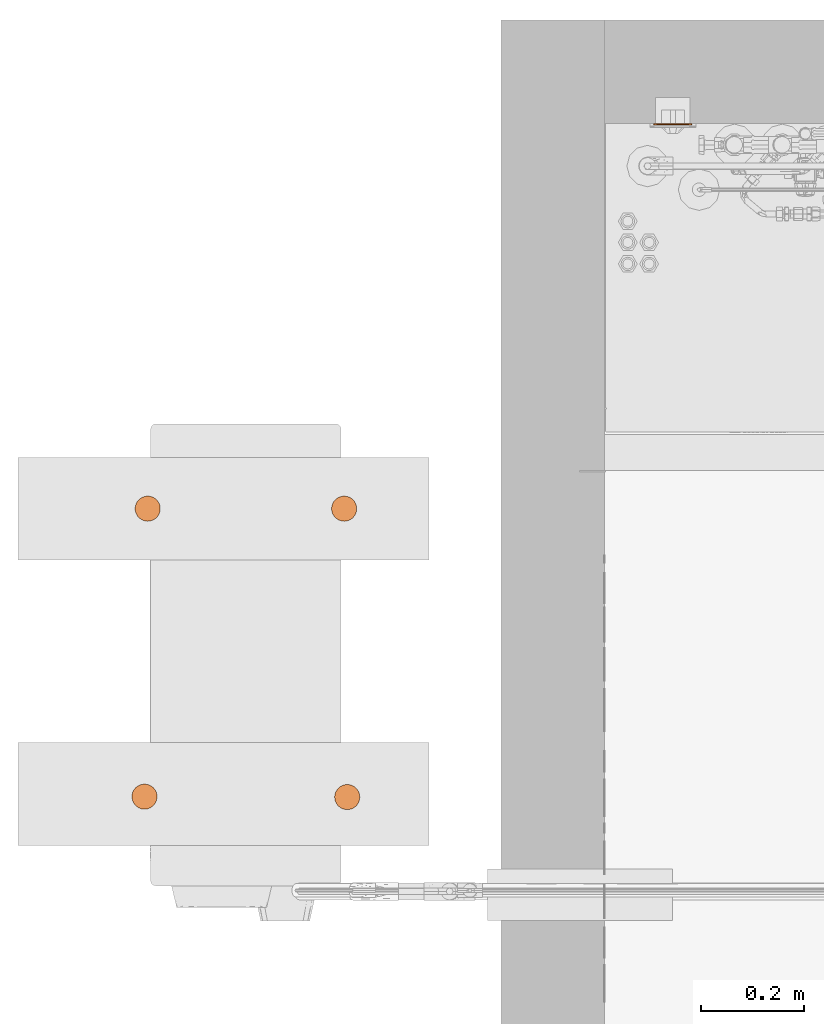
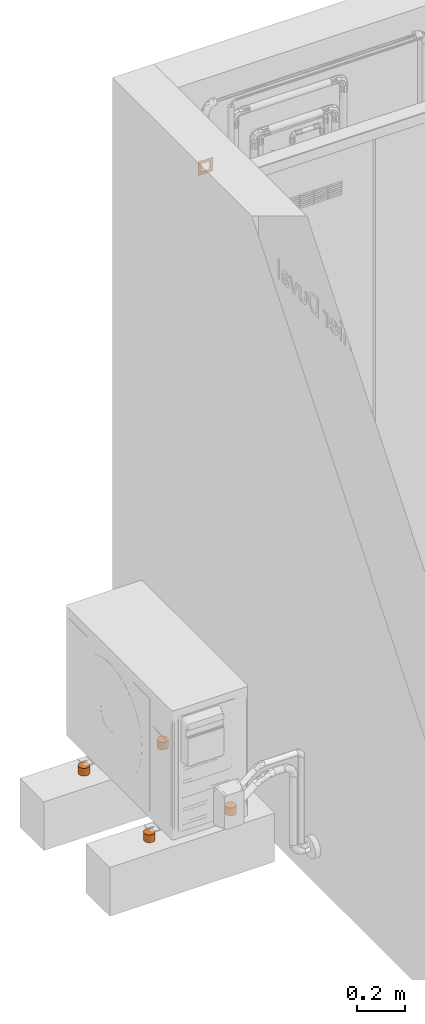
# One storey, part 30 of 32: 5 proxies.
"""IFC2X3 building model written with IfcOpenShell, lengths in metres."""

import ifcopenshell
import ifcopenshell.guid

model = None  # the IFC model being written
_history = None  # IfcOwnerHistory: only IFC2X3 demands one
_inside = {}  # id of a spatial element -> (the spatial element, [elements in it])
_under = {}  # id of a project, library or spatial element -> (it, [spatial elements below it])
_declared = {}  # id of a project -> (the project, [libraries it declares])
_typed = {}  # id of a type object -> (the type object, [elements of that type])
_made_of = {}  # id of a material, layer set ... -> (it, [elements and type objects made of it])


def new_model(schema):
    """Start an empty IFC model of exactly this schema.

    Asked for "IFC4X3", IfcOpenShell would pick the latest addendum, in which some entities
    have other attributes; the version numbers below select the first issue.
    IFC2X3 requires an IfcOwnerHistory on every rooted entity: one is made here for all.
    """
    global model, _history
    if schema == "IFC4X3":
        model = ifcopenshell.file(schema_version=(4, 3, 0, 0))
    else:
        model = ifcopenshell.file(schema=schema)
    _inside.clear()
    _under.clear()
    _declared.clear()
    _typed.clear()
    _made_of.clear()
    _history = None
    if model.schema == "IFC2X3":
        org = make("IfcOrganization", Name="unknown")
        user = make(
            "IfcPersonAndOrganization",
            ThePerson=make("IfcPerson", FamilyName="unknown"),
            TheOrganization=org,
        )
        app = make(
            "IfcApplication",
            ApplicationDeveloper=org,
            Version="unknown",
            ApplicationFullName="unknown",
            ApplicationIdentifier="unknown",
        )
        _history = make(
            "IfcOwnerHistory",
            OwningUser=user,
            OwningApplication=app,
            ChangeAction="ADDED",
            CreationDate=0,
        )
    return model


def make(cls, **values):
    """One entity of the class cls with the attributes given. An attribute that is None is left unset."""
    return model.create_entity(
        cls, **{name: value for name, value in values.items() if value is not None}
    )


def entity(cls, *values):
    """Any entity or typed value of the class cls, its attributes in the order of the schema. None: left unset."""
    e = model.create_entity(cls)
    for i, value in enumerate(values):
        if value is not None:
            e[i] = value
    return e


def rooted(cls, **values):
    """An entity with a GlobalId (a new one), such as an element, a storey or a relation."""
    return make(cls, GlobalId=ifcopenshell.guid.new(), OwnerHistory=_history, **values)


def si_unit(unit_type, name, prefix=None):
    """IfcSIUnit, for example si_unit("LENGTHUNIT", "METRE", prefix="MILLI")."""
    return make("IfcSIUnit", UnitType=unit_type, Prefix=prefix, Name=name)


def converted_unit(unit_type, name, factor, base, dimensions=None, offset=None):
    """IfcConversionBasedUnit, such as the inch: factor (a typed value) times the base unit."""
    return make(
        "IfcConversionBasedUnit"
        if offset is None
        else "IfcConversionBasedUnitWithOffset",
        ConversionOffset=offset,
        Dimensions=None
        if dimensions is None
        else entity("IfcDimensionalExponents", *dimensions),
        UnitType=unit_type,
        Name=name,
        ConversionFactor=make(
            "IfcMeasureWithUnit", ValueComponent=factor, UnitComponent=base
        ),
    )


def derived_unit(unit_type, elements):
    """IfcDerivedUnit: a product of units, each with its exponent."""
    return make(
        "IfcDerivedUnit",
        Elements=[
            make("IfcDerivedUnitElement", Unit=unit, Exponent=power)
            for unit, power in elements
        ],
        UnitType=unit_type,
    )


def assignment(units):
    """IfcUnitAssignment: the units of a project."""
    return None if units is None else make("IfcUnitAssignment", Units=units)


def point(xyz):
    """IfcCartesianPoint."""
    return None if xyz is None else make("IfcCartesianPoint", Coordinates=xyz)


def direction(xyz):
    """IfcDirection."""
    return None if xyz is None else make("IfcDirection", DirectionRatios=xyz)


def frame(location, z_axis=None, x_axis=None):
    """IfcAxis2Placement3D, a coordinate frame: its origin and axes. An axis left out is left unset."""
    return make(
        "IfcAxis2Placement3D",
        Location=point(location),
        Axis=direction(z_axis),
        RefDirection=direction(x_axis),
    )


def frame_2d(location, x_axis=None):
    """IfcAxis2Placement2D, a coordinate frame in the plane: its origin and x axis."""
    return make(
        "IfcAxis2Placement2D", Location=point(location), RefDirection=direction(x_axis)
    )


def origin():
    """The frame at (0, 0, 0) with its axes left unset."""
    return frame((0.0, 0.0, 0.0))


def place(relative_to, where):
    """IfcLocalPlacement: puts the frame where relative to a parent placement (None: the world)."""
    return make(
        "IfcLocalPlacement", PlacementRelTo=relative_to, RelativePlacement=where
    )


def context(
    kind, dimensions, precision=None, world=None, true_north=None, identifier=None
):
    """IfcGeometricRepresentationContext, for example the 3D "Model" context."""
    return make(
        "IfcGeometricRepresentationContext",
        ContextIdentifier=identifier,
        ContextType=kind,
        CoordinateSpaceDimension=dimensions,
        Precision=precision,
        WorldCoordinateSystem=world,
        TrueNorth=true_north,
    )


def subcontext(parent, identifier, kind, view, scale=None):
    """IfcGeometricRepresentationSubContext, for example "Body" below "Model"."""
    return make(
        "IfcGeometricRepresentationSubContext",
        ContextIdentifier=identifier,
        ContextType=kind,
        ParentContext=parent,
        TargetScale=scale,
        TargetView=view,
    )


def project(units=None, contexts=None):
    """IfcProject with its units and contexts."""
    return rooted(
        "IfcProject",
        Name="project",
        RepresentationContexts=contexts,
        UnitsInContext=assignment(units),
    )


def spatial(cls, under=None, at=None, **own):
    """A site, building, storey or space (cls), placed at a placement, below another one or the project."""
    s = rooted(cls, ObjectPlacement=at, **own)
    if under is not None:
        _under.setdefault(under.id(), (under, []))[1].append(s)
    return s


def polyline(points):
    """IfcPolyline through the points."""
    return make("IfcPolyline", Points=[point(p) for p in points])


def circle_curve(where, radius):
    """IfcCircle in the frame where."""
    return make("IfcCircle", Position=where, Radius=radius)


def parameter(value):
    """IfcParameterValue: where a trimmed curve begins or ends, as a parameter of its basis curve."""
    return model.create_entity("IfcParameterValue", value)


def trimmed(basis, trim1, trim2, sense, master):
    """IfcTrimmedCurve: the piece of a basis curve between two trims."""
    return make(
        "IfcTrimmedCurve",
        BasisCurve=basis,
        Trim1=trim1,
        Trim2=trim2,
        SenseAgreement=sense,
        MasterRepresentation=master,
    )


def segment(curve, same_sense, transition):
    """IfcCompositeCurveSegment."""
    return make(
        "IfcCompositeCurveSegment",
        Transition=transition,
        SameSense=same_sense,
        ParentCurve=curve,
    )


def composite_curve(segments, self_intersect=None):
    """IfcCompositeCurve: segments joined end to end."""
    return make("IfcCompositeCurve", Segments=segments, SelfIntersect=self_intersect)


def profile(cls, at=None, kind="AREA", **sizes):
    """A parametric profile (cls). Its sizes go by their IFC names, for example OverallWidth=200.0."""
    return make(cls, ProfileType=kind, Position=at, **sizes)


def circle(**sizes):
    """IfcCircleProfileDef."""
    return profile("IfcCircleProfileDef", **sizes)


def outline(outer, holes=None, kind="AREA"):
    """IfcArbitraryClosedProfileDef: a profile drawn as a closed curve; with holes, ...WithVoids."""
    if holes is None:
        return make("IfcArbitraryClosedProfileDef", ProfileType=kind, OuterCurve=outer)
    return make(
        "IfcArbitraryProfileDefWithVoids",
        ProfileType=kind,
        OuterCurve=outer,
        InnerCurves=holes,
    )


def extrude(swept, where, along, depth):
    """IfcExtrudedAreaSolid: the profile swept, set in the frame where, extruded along a direction by depth."""
    return make(
        "IfcExtrudedAreaSolid",
        SweptArea=swept,
        Position=where,
        ExtrudedDirection=direction(along),
        Depth=depth,
    )


def shape(context_of_items, identifier, shape_type, items):
    """IfcShapeRepresentation: the items that make up one representation, for example the "Body"."""
    return make(
        "IfcShapeRepresentation",
        ContextOfItems=context_of_items,
        RepresentationIdentifier=identifier,
        RepresentationType=shape_type,
        Items=items,
    )


def source(mapping_origin, context_of_items, identifier, shape_type, items):
    """IfcRepresentationMap: a shape defined once, which mapped items show again and again."""
    return make(
        "IfcRepresentationMap",
        MappingOrigin=mapping_origin,
        MappedRepresentation=shape(context_of_items, identifier, shape_type, items),
    )


def transform(
    local_origin,
    x_axis=None,
    y_axis=None,
    z_axis=None,
    scale=None,
    scale2=None,
    scale3=None,
    uniform=True,
):
    """IfcCartesianTransformationOperator3D, or its non-uniform kind. x_axis, y_axis, z_axis: its Axis1, 2, 3."""
    if uniform:
        return make(
            "IfcCartesianTransformationOperator3D",
            Axis1=direction(x_axis),
            Axis2=direction(y_axis),
            LocalOrigin=point(local_origin),
            Scale=scale,
            Axis3=direction(z_axis),
        )
    return make(
        "IfcCartesianTransformationOperator3DnonUniform",
        Axis1=direction(x_axis),
        Axis2=direction(y_axis),
        LocalOrigin=point(local_origin),
        Scale=scale,
        Axis3=direction(z_axis),
        Scale2=scale2,
        Scale3=scale3,
    )


def mapped(mapping_source, mapping_target):
    """IfcMappedItem: shows the shape of a source again, moved by a transform."""
    return make(
        "IfcMappedItem", MappingSource=mapping_source, MappingTarget=mapping_target
    )


def material(Name=None, Category=None):
    """IfcMaterial."""
    return make("IfcMaterial", Name=Name, Category=Category)


def made_of(thing, what):
    """Note that an element or type object is made of a material, layer set ...; save() writes the relation."""
    if what is not None:
        _made_of.setdefault(what.id(), (what, []))[1].append(thing)
    return thing


def type_object(cls, material=None, **own):
    """A type object (cls), such as IfcWallType, which elements share."""
    return made_of(rooted(cls, **own), material)


def type_shapes(of_type, sources):
    """Give a type object the sources (RepresentationMaps) that its elements show as mapped items."""
    of_type.RepresentationMaps = sources


def element(
    cls,
    number,
    at=None,
    inside=None,
    cuts=None,
    type_object=None,
    material=None,
    context=None,
    identifier="Body",
    shape_type=None,
    held_by="IfcProductDefinitionShape",
    body=None,
    shapes=None,
    **own,
):
    """One element of the class cls, such as IfcWall. Its Tag is "e" and its number.

    at: its placement. inside: the storey or other place that contains it. cuts: it is an
    opening in that element (IfcRelVoidsElement). A single representation is given by context,
    identifier, shape_type and body (its items); several are given by shapes. held_by: the class
    of the entity that holds the representations. save() writes the other relations.
    """
    e = rooted(cls, Tag="e%d" % number, ObjectPlacement=at, **own)
    if body is not None:
        shapes = [shape(context, identifier, shape_type, body)]
    if shapes is not None:
        e.Representation = make(held_by, Representations=shapes)
    if inside is not None:
        _inside.setdefault(inside.id(), (inside, []))[1].append(e)
    if cuts is not None:
        rooted(
            "IfcRelVoidsElement", RelatingBuildingElement=cuts, RelatedOpeningElement=e
        )
    if type_object is not None:
        _typed.setdefault(type_object.id(), (type_object, []))[1].append(e)
    return made_of(e, material)


def aggregate(whole, parts):
    """IfcRelAggregates: a whole, such as a stair, and the parts it consists of."""
    return rooted("IfcRelAggregates", RelatingObject=whole, RelatedObjects=parts)


def save(model, path):
    """Write the relations noted so far, then the file.

    IfcRelAggregates (storeys below a building ...), IfcRelContainedInSpatialStructure (elements
    in a storey), IfcRelDefinesByType, IfcRelAssociatesMaterial and IfcRelDeclares: one each for
    every whole, place, type object, material and project.
    """
    for whole, parts in _under.values():
        aggregate(whole, parts)
    for where, things in _inside.values():
        rooted(
            "IfcRelContainedInSpatialStructure",
            RelatedElements=things,
            RelatingStructure=where,
        )
    for kind, things in _typed.values():
        rooted("IfcRelDefinesByType", RelatedObjects=things, RelatingType=kind)
    for what, things in _made_of.values():
        rooted("IfcRelAssociatesMaterial", RelatedObjects=things, RelatingMaterial=what)
    for by, libraries in _declared.values():
        rooted("IfcRelDeclares", RelatingContext=by, RelatedDefinitions=libraries)
    model.write(path)


model = new_model("IFC2X3")

# Units and contexts
model_context = context("Model", 3, precision=1e-05, world=origin(), true_north=direction((6.123031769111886e-17, 1.0)))
body_context = subcontext(model_context, "Body", "Model", "MODEL_VIEW")
ifc_project = project(units=[si_unit("LENGTHUNIT", "METRE"), si_unit("AREAUNIT", "SQUARE_METRE"), si_unit("VOLUMEUNIT", "CUBIC_METRE"), converted_unit("PLANEANGLEUNIT", "DEGREE", entity("IfcPlaneAngleMeasure", 0.017453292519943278), si_unit("PLANEANGLEUNIT", "RADIAN"), dimensions=[0, 0, 0, 0, 0, 0, 0]), si_unit("MASSUNIT", "GRAM", prefix="KILO"), derived_unit("MASSDENSITYUNIT", [(si_unit("MASSUNIT", "GRAM", prefix="KILO"), 1), (si_unit("LENGTHUNIT", "METRE"), -3)]), derived_unit("IONCONCENTRATIONUNIT", [(si_unit("MASSUNIT", "GRAM", prefix="KILO"), 1), (si_unit("LENGTHUNIT", "METRE"), -3)]), derived_unit("MOMENTOFINERTIAUNIT", [(si_unit("LENGTHUNIT", "METRE"), 4)]), si_unit("TIMEUNIT", "SECOND"), si_unit("FREQUENCYUNIT", "HERTZ"), si_unit("THERMODYNAMICTEMPERATUREUNIT", "DEGREE_CELSIUS"), derived_unit("THERMALTRANSMITTANCEUNIT", [(si_unit("MASSUNIT", "GRAM", prefix="KILO"), 1), (si_unit("THERMODYNAMICTEMPERATUREUNIT", "KELVIN"), -1), (si_unit("TIMEUNIT", "SECOND"), -3)]), derived_unit("THERMALCONDUCTANCEUNIT", [(si_unit("MASSUNIT", "GRAM", prefix="KILO"), 1), (si_unit("THERMODYNAMICTEMPERATUREUNIT", "KELVIN"), -1), (si_unit("TIMEUNIT", "SECOND"), -3), (si_unit("LENGTHUNIT", "METRE"), 1)]), derived_unit("VOLUMETRICFLOWRATEUNIT", [(si_unit("LENGTHUNIT", "METRE", prefix="DECI"), 3), (si_unit("TIMEUNIT", "SECOND"), -1)]), derived_unit("MASSFLOWRATEUNIT", [(si_unit("MASSUNIT", "GRAM", prefix="KILO"), 1), (si_unit("TIMEUNIT", "SECOND"), -1)]), derived_unit("ROTATIONALFREQUENCYUNIT", [(si_unit("TIMEUNIT", "SECOND"), -1)]), si_unit("ELECTRICCURRENTUNIT", "AMPERE"), si_unit("ELECTRICVOLTAGEUNIT", "VOLT"), si_unit("POWERUNIT", "WATT"), si_unit("FORCEUNIT", "NEWTON", prefix="KILO"), si_unit("ILLUMINANCEUNIT", "LUX"), si_unit("LUMINOUSFLUXUNIT", "LUMEN"), si_unit("LUMINOUSINTENSITYUNIT", "CANDELA"), si_unit("ENERGYUNIT", "JOULE"), derived_unit("USERDEFINED", [(si_unit("MASSUNIT", "GRAM", prefix="KILO"), -1), (si_unit("LENGTHUNIT", "METRE"), -2), (si_unit("TIMEUNIT", "SECOND"), 3), (si_unit("LUMINOUSFLUXUNIT", "LUMEN"), 1)]), derived_unit("USERDEFINED", [(si_unit("MASSUNIT", "GRAM", prefix="KILO"), 1), (si_unit("TIMEUNIT", "SECOND"), -3), (si_unit("LENGTHUNIT", "METRE"), 3), (si_unit("ELECTRICCURRENTUNIT", "AMPERE"), -2)]), derived_unit("SOUNDPOWERUNIT", [(si_unit("MASSUNIT", "GRAM", prefix="KILO"), 1), (si_unit("TIMEUNIT", "SECOND"), -3), (si_unit("LENGTHUNIT", "METRE"), 2)]), derived_unit("SOUNDPRESSUREUNIT", [(si_unit("MASSUNIT", "GRAM", prefix="KILO"), 1), (si_unit("LENGTHUNIT", "METRE"), -1), (si_unit("TIMEUNIT", "SECOND"), -2)]), derived_unit("LINEARVELOCITYUNIT", [(si_unit("LENGTHUNIT", "METRE"), 1), (si_unit("TIMEUNIT", "SECOND"), -1)]), si_unit("PRESSUREUNIT", "PASCAL"), derived_unit("USERDEFINED", [(si_unit("MASSUNIT", "GRAM", prefix="KILO"), 1), (si_unit("LENGTHUNIT", "METRE"), -2), (si_unit("TIMEUNIT", "SECOND"), -2)]), derived_unit("LINEARFORCEUNIT", [(si_unit("MASSUNIT", "GRAM", prefix="KILO"), 1), (si_unit("TIMEUNIT", "SECOND"), -2)]), derived_unit("PLANARFORCEUNIT", [(si_unit("MASSUNIT", "GRAM", prefix="KILO"), 1), (si_unit("LENGTHUNIT", "METRE"), -1), (si_unit("TIMEUNIT", "SECOND"), -2)]), derived_unit("SPECIFICHEATCAPACITYUNIT", [(si_unit("THERMODYNAMICTEMPERATUREUNIT", "KELVIN"), -1), (si_unit("LENGTHUNIT", "METRE"), 2), (si_unit("TIMEUNIT", "SECOND"), -2)]), derived_unit("HEATFLUXDENSITYUNIT", [(si_unit("MASSUNIT", "GRAM", prefix="KILO"), 1), (si_unit("TIMEUNIT", "SECOND"), -3)]), derived_unit("HEATINGVALUEUNIT", [(si_unit("LENGTHUNIT", "METRE"), 2), (si_unit("TIMEUNIT", "SECOND"), -2)]), derived_unit("VAPORPERMEABILITYUNIT", [(si_unit("LENGTHUNIT", "METRE"), -1), (si_unit("TIMEUNIT", "SECOND"), 1)]), derived_unit("DYNAMICVISCOSITYUNIT", [(si_unit("MASSUNIT", "GRAM", prefix="KILO"), 1), (si_unit("TIMEUNIT", "SECOND"), -1), (si_unit("LENGTHUNIT", "METRE"), -1)]), derived_unit("THERMALEXPANSIONCOEFFICIENTUNIT", [(si_unit("THERMODYNAMICTEMPERATUREUNIT", "KELVIN"), -1)]), derived_unit("MODULUSOFELASTICITYUNIT", [(si_unit("MASSUNIT", "GRAM", prefix="KILO"), 1), (si_unit("LENGTHUNIT", "METRE"), -1), (si_unit("TIMEUNIT", "SECOND"), -2)]), derived_unit("ISOTHERMALMOISTURECAPACITYUNIT", [(si_unit("MASSUNIT", "GRAM", prefix="KILO"), -1), (si_unit("LENGTHUNIT", "METRE"), 3)]), derived_unit("MOISTUREDIFFUSIVITYUNIT", [(si_unit("TIMEUNIT", "SECOND"), -1), (si_unit("LENGTHUNIT", "METRE"), 2)]), derived_unit("MASSPERLENGTHUNIT", [(si_unit("MASSUNIT", "GRAM", prefix="KILO"), 1), (si_unit("LENGTHUNIT", "METRE"), -1)]), derived_unit("THERMALRESISTANCEUNIT", [(si_unit("MASSUNIT", "GRAM", prefix="KILO"), -1), (si_unit("TIMEUNIT", "SECOND"), 3), (si_unit("THERMODYNAMICTEMPERATUREUNIT", "KELVIN"), 1)]), derived_unit("ACCELERATIONUNIT", [(si_unit("LENGTHUNIT", "METRE"), 1), (si_unit("TIMEUNIT", "SECOND"), -2)]), derived_unit("ANGULARVELOCITYUNIT", [(si_unit("TIMEUNIT", "SECOND"), -1), (si_unit("PLANEANGLEUNIT", "RADIAN"), 1)]), derived_unit("LINEARSTIFFNESSUNIT", [(si_unit("MASSUNIT", "GRAM", prefix="KILO"), 1), (si_unit("TIMEUNIT", "SECOND"), -2)]), derived_unit("WARPINGCONSTANTUNIT", [(si_unit("LENGTHUNIT", "METRE"), 6)]), derived_unit("LINEARMOMENTUNIT", [(si_unit("MASSUNIT", "GRAM", prefix="KILO"), 1), (si_unit("LENGTHUNIT", "METRE"), 1), (si_unit("TIMEUNIT", "SECOND"), -2)]), derived_unit("TORQUEUNIT", [(si_unit("MASSUNIT", "GRAM", prefix="KILO"), 1), (si_unit("LENGTHUNIT", "METRE"), 2), (si_unit("TIMEUNIT", "SECOND"), -2)])], contexts=[model_context])

# Site, building, storey
site_placement = place(None, origin())
site = spatial("IfcSite", under=ifc_project, at=site_placement, Name="Default", CompositionType="ELEMENT")
building_placement = place(site_placement, origin())
building = spatial("IfcBuilding", under=site, at=building_placement, CompositionType="ELEMENT")
storey_placement = place(building_placement, origin())
storey = spatial("IfcBuildingStorey", under=building, at=storey_placement, Name="Niveau 0", CompositionType="ELEMENT", Elevation=-1.949160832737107e-14)

# Proxies
ifc_material_1 = material(Name="Valeur par défaut Nouveau Matériau")
building_element_proxy_type_1 = type_object("IfcBuildingElementProxyType", Name="Pied antivibratile ep 40:Pied antivibratile ep 40", PredefinedType="NOTDEFINED", material=ifc_material_1)
shared_shape_1 = source(origin(), body_context, "Body", "SweptSolid", [
    extrude(circle(Radius=0.0245, at=frame_2d((5.12283467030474e-19, -3.958084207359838e-17), x_axis=(1.0, 0.0))), origin(), (0.0, 0.0, 1.0), 0.04),
])
type_shapes(building_element_proxy_type_1, [shared_shape_1])
for number, where, z_axis, x_axis, name in (
    (1, (-15.603565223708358, 1.5593600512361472, -0.24999999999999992), (0.0, 0.0, 1.0), (0.0, 1.0, 0.0), "Pied antivibratile ep 40:Pied antivibratile ep 40"),
    (2, (-15.597315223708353, 2.1193600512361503, -0.24999999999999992), (0.0, 0.0, 1.0), (0.0, 1.0, 0.0), "Pied antivibratile ep 40:Pied antivibratile ep 40"),
    (3, (-15.215315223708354, 2.1193600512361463, -0.24999999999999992), (0.0, 0.0, 1.0), (0.0, 1.0, 0.0), "Pied antivibratile ep 40:Pied antivibratile ep 40"),
    (4, (-15.209357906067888, 1.5585264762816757, -0.24999999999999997), (0.0, 0.0, 1.0), (-1.0, 0.0, 0.0), "Pied antivibratile ep 40:Pied antivibratile ep 40"),
):
    element("IfcBuildingElementProxy", number, at=place(storey_placement, frame(where, z_axis=z_axis, x_axis=x_axis)), inside=storey, type_object=building_element_proxy_type_1, material=ifc_material_1, Name=name, ObjectType="Pied antivibratile ep 40:Pied antivibratile ep 40", context=body_context, shape_type="MappedRepresentation", body=[
        mapped(shared_shape_1, transform((0.0, 0.0, 0.0), scale=1.0)),
    ])
ifc_material_2 = material(Name="Plastique, noir opaque")
building_element_proxy_type_2 = type_object("IfcBuildingElementProxyType", Name="Legrand support universel-20181:1 poste", PredefinedType="NOTDEFINED", material=ifc_material_2)
shared_shape_2 = source(origin(), body_context, "Body", "SweptSolid", [
    extrude(outline(composite_curve([segment(polyline([(-0.03200000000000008, -0.03544999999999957), (0.03200000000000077, -0.03544999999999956)]), True, "CONTINUOUS"), segment(trimmed(circle_curve(frame_2d((0.032000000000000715, -0.030449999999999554), x_axis=(1.0, 0.0)), 0.005), [parameter(270.0000000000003)], [parameter(4.0711099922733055e-13)], True, "PARAMETER"), True, "CONTINUOUS"), segment(polyline([(0.037000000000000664, -0.03044999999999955), (0.037000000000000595, 0.03044999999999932)]), True, "CONTINUOUS"), segment(trimmed(circle_curve(frame_2d((0.03200000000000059, 0.030449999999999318), x_axis=(1.0, 0.0)), 0.005), [parameter(0.0)], [parameter(90.00000000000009)], True, "PARAMETER"), True, "CONTINUOUS"), segment(polyline([(0.03200000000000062, 0.03544999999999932), (-0.03200000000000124, 0.03544999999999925)]), True, "CONTINUOUS"), segment(trimmed(circle_curve(frame_2d((-0.0320000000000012, 0.03044999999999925), x_axis=(1.0, 0.0)), 0.005000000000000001), [parameter(90.0000000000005)], [parameter(179.99999999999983)], True, "PARAMETER"), True, "CONTINUOUS"), segment(polyline([(-0.037000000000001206, 0.030449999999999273), (-0.03700000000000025, -0.030449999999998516)]), True, "CONTINUOUS"), segment(trimmed(circle_curve(frame_2d((-0.03200000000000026, -0.030449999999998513), x_axis=(1.0, 0.0)), 0.005), [parameter(179.99999999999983)], [parameter(269.9999999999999)], True, "PARAMETER"), True, "CONTINUOUS")], self_intersect=False), holes=[polyline([(-0.020249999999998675, -0.020250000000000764), (-0.020249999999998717, 0.02024999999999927), (0.020250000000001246, 0.02024999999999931), (0.020250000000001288, -0.020250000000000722), (-0.020249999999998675, -0.020250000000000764)])]), frame((0.12499999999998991, 0.1015, 0.2498891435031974), z_axis=(0.0, 1.0, 0.0), x_axis=(1.0, 0.0, 0.0)), (0.0, 0.0, 1.0), 0.002000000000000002),
])
type_shapes(building_element_proxy_type_2, [shared_shape_2])
proxy_placement = place(storey_placement, frame((-14.451077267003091, 2.969026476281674, 1.8007733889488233), z_axis=(0.0, 0.0, 1.0), x_axis=(-1.0, 0.0, 0.0)))
element("IfcBuildingElementProxy", 5, at=proxy_placement, inside=storey, type_object=building_element_proxy_type_2, material=ifc_material_2, Name="Legrand support universel-20181:1 poste", ObjectType="Legrand support universel-20181:1 poste", context=body_context, shape_type="MappedRepresentation", body=[
    mapped(shared_shape_2, transform((0.0, 0.0, 0.0), scale=1.0)),
])

save(model, "model.ifc")
